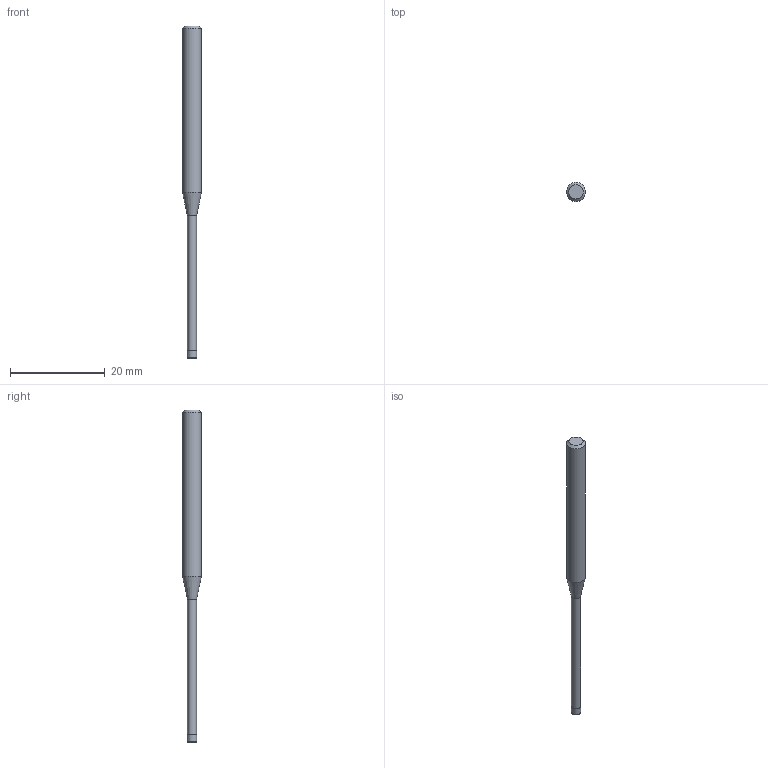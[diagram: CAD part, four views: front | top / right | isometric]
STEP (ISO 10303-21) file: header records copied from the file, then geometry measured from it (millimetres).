
FILE_DESCRIPTION((''),'2;1');
FILE_NAME('C:\Users\nsx150\AppData\Local\Temp\Mastercam 2021\17T8Q8S9EB\TEMP.step','2021-04-21T14:37:00',(''),(''),'STEP Write','Mastercam 2021 ... CNC Software, Inc.','');
FILE_SCHEMA(('AUTOMOTIVE_DESIGN'));
Length unit declared in the file: millimetre
Products named in the file (1): None
Bounding box: 4 x 4 x 70 mm (x, y, z)
Volume: 560.9 mm3; surface area: 685.4 mm2
Topology: 2 solids, 2 shells, 10 faces, 14 edges, 8 vertices
Faces by surface type: plane 4, cylinder 3, cone 2, torus 1
Full cylindrical faces by diameter (mm): 1.91 x1, 2 x1, 4 x1
Entity records: 232 total; most frequent: DIRECTION 40, CARTESIAN_POINT 28, AXIS2_PLACEMENT_3D 20, ORIENTED_EDGE 16, EDGE_LOOP 16, STYLED_ITEM 13, ADVANCED_FACE 10, FACE_BOUND 10
